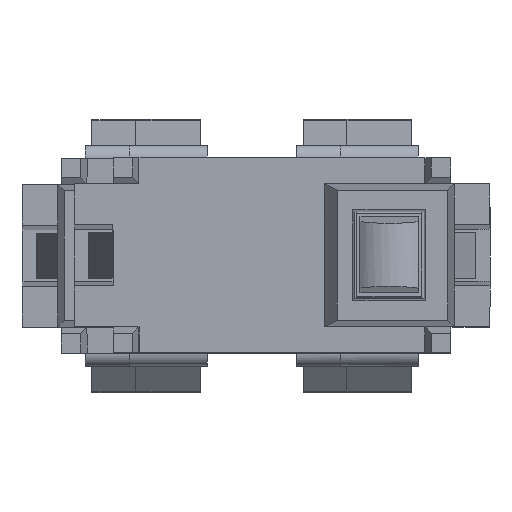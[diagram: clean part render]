
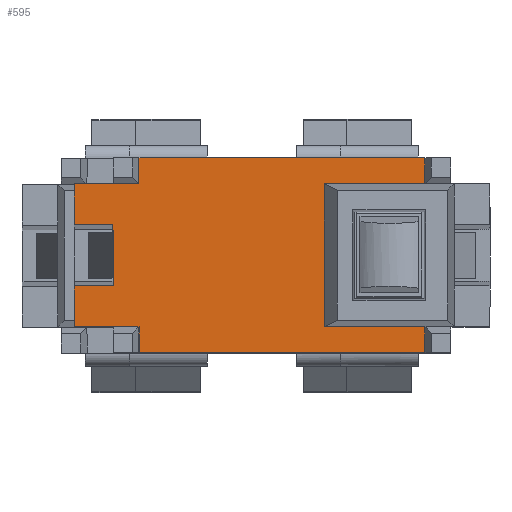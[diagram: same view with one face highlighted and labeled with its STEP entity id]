
A CAD part, top view. The second image highlights one B-rep face of the part: STEP entity #595.
In plain terms, the highlighted planar face has unit normal (0, 0, 1).
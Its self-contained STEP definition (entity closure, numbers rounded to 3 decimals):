
#595 = ADVANCED_FACE( '', ( #1249 ), #1250, .T. );
#1249 = FACE_OUTER_BOUND( '', #1990, .T. );
#1250 = PLANE( '', #1991 );
#1990 = EDGE_LOOP( '', ( #3638, #3639, #3640, #3641, #3642, #3643, #3644, #3645, #3646, #3647, #3648, #3649, #3650, #3651, #3652, #3653 ) );
#1991 = AXIS2_PLACEMENT_3D( '', #3654, #3655, #3656 );
#3638 = ORIENTED_EDGE( '', *, *, #4539, .F. );
#3639 = ORIENTED_EDGE( '', *, *, #5190, .F. );
#3640 = ORIENTED_EDGE( '', *, *, #4680, .T. );
#3641 = ORIENTED_EDGE( '', *, *, #5191, .T. );
#3642 = ORIENTED_EDGE( '', *, *, #4533, .T. );
#3643 = ORIENTED_EDGE( '', *, *, #5192, .T. );
#3644 = ORIENTED_EDGE( '', *, *, #5028, .T. );
#3645 = ORIENTED_EDGE( '', *, *, #5193, .T. );
#3646 = ORIENTED_EDGE( '', *, *, #4891, .F. );
#3647 = ORIENTED_EDGE( '', *, *, #4930, .F. );
#3648 = ORIENTED_EDGE( '', *, *, #4884, .F. );
#3649 = ORIENTED_EDGE( '', *, *, #5039, .T. );
#3650 = ORIENTED_EDGE( '', *, *, #4851, .T. );
#3651 = ORIENTED_EDGE( '', *, *, #5194, .T. );
#3652 = ORIENTED_EDGE( '', *, *, #5172, .T. );
#3653 = ORIENTED_EDGE( '', *, *, #5195, .T. );
#3654 = CARTESIAN_POINT( '', ( 2.2, 1.5, 0.35 ) );
#3655 = DIRECTION( '', ( 0., 0., 1. ) );
#3656 = DIRECTION( '', ( 1., 0., 0. ) );
#4533 = EDGE_CURVE( '', #5428, #5439, #5441, .T. );
#4539 = EDGE_CURVE( '', #5450, #5443, #5452, .T. );
#4680 = EDGE_CURVE( '', #5701, #5699, #5702, .T. );
#4851 = EDGE_CURVE( '', #5979, #5977, #5980, .T. );
#4884 = EDGE_CURVE( '', #5604, #6035, #6036, .T. );
#4891 = EDGE_CURVE( '', #6046, #6048, #6049, .T. );
#4930 = EDGE_CURVE( '', #6035, #6046, #6107, .T. );
#5028 = EDGE_CURVE( '', #6249, #6247, #6250, .T. );
#5039 = EDGE_CURVE( '', #5604, #5979, #6262, .T. );
#5172 = EDGE_CURVE( '', #6444, #6441, #6445, .T. );
#5190 = EDGE_CURVE( '', #5701, #5450, #6471, .T. );
#5191 = EDGE_CURVE( '', #5699, #5428, #6472, .T. );
#5192 = EDGE_CURVE( '', #5439, #6249, #6473, .T. );
#5193 = EDGE_CURVE( '', #6247, #6048, #6474, .T. );
#5194 = EDGE_CURVE( '', #5977, #6444, #6475, .T. );
#5195 = EDGE_CURVE( '', #6441, #5443, #6476, .T. );
#5428 = VERTEX_POINT( '', #6751 );
#5439 = VERTEX_POINT( '', #6767 );
#5441 = LINE( '', #6770, #6771 );
#5443 = VERTEX_POINT( '', #6773 );
#5450 = VERTEX_POINT( '', #6783 );
#5452 = LINE( '', #6786, #6787 );
#5604 = VERTEX_POINT( '', #7000 );
#5699 = VERTEX_POINT( '', #7138 );
#5701 = VERTEX_POINT( '', #7141 );
#5702 = LINE( '', #7142, #7143 );
#5977 = VERTEX_POINT( '', #7540 );
#5979 = VERTEX_POINT( '', #7543 );
#5980 = LINE( '', #7544, #7545 );
#6035 = VERTEX_POINT( '', #7628 );
#6036 = LINE( '', #7629, #7630 );
#6046 = VERTEX_POINT( '', #7644 );
#6048 = VERTEX_POINT( '', #7647 );
#6049 = LINE( '', #7648, #7649 );
#6107 = LINE( '', #7735, #7736 );
#6247 = VERTEX_POINT( '', #7944 );
#6249 = VERTEX_POINT( '', #7947 );
#6250 = LINE( '', #7948, #7949 );
#6262 = LINE( '', #7967, #7968 );
#6441 = VERTEX_POINT( '', #8234 );
#6444 = VERTEX_POINT( '', #8238 );
#6445 = LINE( '', #8239, #8240 );
#6471 = LINE( '', #8278, #8279 );
#6472 = LINE( '', #8280, #8281 );
#6473 = LINE( '', #8282, #8283 );
#6474 = LINE( '', #8284, #8285 );
#6475 = LINE( '', #8286, #8287 );
#6476 = LINE( '', #8288, #8289 );
#6751 = CARTESIAN_POINT( '', ( 3.2, 1.1, 0.35 ) );
#6767 = CARTESIAN_POINT( '', ( 2.2, 1.1, 0.35 ) );
#6770 = CARTESIAN_POINT( '', ( 3.2, 1.1, 0.35 ) );
#6771 = VECTOR( '', #8601, 1000. );
#6773 = CARTESIAN_POINT( '', ( 3.2, -0.472, 0.35 ) );
#6783 = CARTESIAN_POINT( '', ( 2.6, -0.472, 0.35 ) );
#6786 = CARTESIAN_POINT( '', ( 2.6, -0.472, 0.35 ) );
#6787 = VECTOR( '', #8606, 1000. );
#7000 = CARTESIAN_POINT( '', ( -2.2, -1.1, 0.35 ) );
#7138 = CARTESIAN_POINT( '', ( 3.2, 0.472, 0.35 ) );
#7141 = CARTESIAN_POINT( '', ( 2.6, 0.472, 0.35 ) );
#7142 = CARTESIAN_POINT( '', ( 2.6, 0.472, 0.35 ) );
#7143 = VECTOR( '', #8745, 1000. );
#7540 = CARTESIAN_POINT( '', ( 2.2, -1.5, 0.35 ) );
#7543 = CARTESIAN_POINT( '', ( -2.2, -1.5, 0.35 ) );
#7544 = CARTESIAN_POINT( '', ( 2.2, -1.5, 0.35 ) );
#7545 = VECTOR( '', #8914, 1000. );
#7628 = CARTESIAN_POINT( '', ( -0.65, -1.1, 0.35 ) );
#7629 = CARTESIAN_POINT( '', ( -2.65, -1.1, 0.35 ) );
#7630 = VECTOR( '', #8943, 1000. );
#7644 = CARTESIAN_POINT( '', ( -0.65, 1.1, 0.35 ) );
#7647 = CARTESIAN_POINT( '', ( -2.2, 1.1, 0.35 ) );
#7648 = CARTESIAN_POINT( '', ( -0.65, 1.1, 0.35 ) );
#7649 = VECTOR( '', #8949, 1000. );
#7735 = CARTESIAN_POINT( '', ( -0.65, 1.1, 0.35 ) );
#7736 = VECTOR( '', #8978, 1000. );
#7944 = CARTESIAN_POINT( '', ( -2.2, 1.5, 0.35 ) );
#7947 = CARTESIAN_POINT( '', ( 2.2, 1.5, 0.35 ) );
#7948 = CARTESIAN_POINT( '', ( 2.2, 1.5, 0.35 ) );
#7949 = VECTOR( '', #9066, 1000. );
#7967 = CARTESIAN_POINT( '', ( -2.2, -1.1, 0.35 ) );
#7968 = VECTOR( '', #9073, 1000. );
#8234 = CARTESIAN_POINT( '', ( 3.2, -1.1, 0.35 ) );
#8238 = CARTESIAN_POINT( '', ( 2.2, -1.1, 0.35 ) );
#8239 = CARTESIAN_POINT( '', ( 3.2, -1.1, 0.35 ) );
#8240 = VECTOR( '', #9189, 1000. );
#8278 = CARTESIAN_POINT( '', ( 2.6, -0.472, 0.35 ) );
#8279 = VECTOR( '', #9202, 1000. );
#8280 = CARTESIAN_POINT( '', ( 3.2, 1.1, 0.35 ) );
#8281 = VECTOR( '', #9203, 1000. );
#8282 = CARTESIAN_POINT( '', ( 2.2, 1.5, 0.35 ) );
#8283 = VECTOR( '', #9204, 1000. );
#8284 = CARTESIAN_POINT( '', ( -2.2, 1.5, 0.35 ) );
#8285 = VECTOR( '', #9205, 1000. );
#8286 = CARTESIAN_POINT( '', ( 2.2, -1.1, 0.35 ) );
#8287 = VECTOR( '', #9206, 1000. );
#8288 = CARTESIAN_POINT( '', ( 3.2, 1.1, 0.35 ) );
#8289 = VECTOR( '', #9207, 1000. );
#8601 = DIRECTION( '', ( -1., 0., 0. ) );
#8606 = DIRECTION( '', ( 1., 0., 0. ) );
#8745 = DIRECTION( '', ( 1., 0., 0. ) );
#8914 = DIRECTION( '', ( 1., 0., 0. ) );
#8943 = DIRECTION( '', ( 1., 0., 0. ) );
#8949 = DIRECTION( '', ( -1., 0., 0. ) );
#8978 = DIRECTION( '', ( 0., 1., 0. ) );
#9066 = DIRECTION( '', ( -1., 0., 0. ) );
#9073 = DIRECTION( '', ( 0., -1., 0. ) );
#9189 = DIRECTION( '', ( 1., 0., 0. ) );
#9202 = DIRECTION( '', ( 0., -1., 0. ) );
#9203 = DIRECTION( '', ( 0., 1., 0. ) );
#9204 = DIRECTION( '', ( 0., 1., 0. ) );
#9205 = DIRECTION( '', ( 0., -1., 0. ) );
#9206 = DIRECTION( '', ( 0., 1., 0. ) );
#9207 = DIRECTION( '', ( 0., 1., 0. ) );
